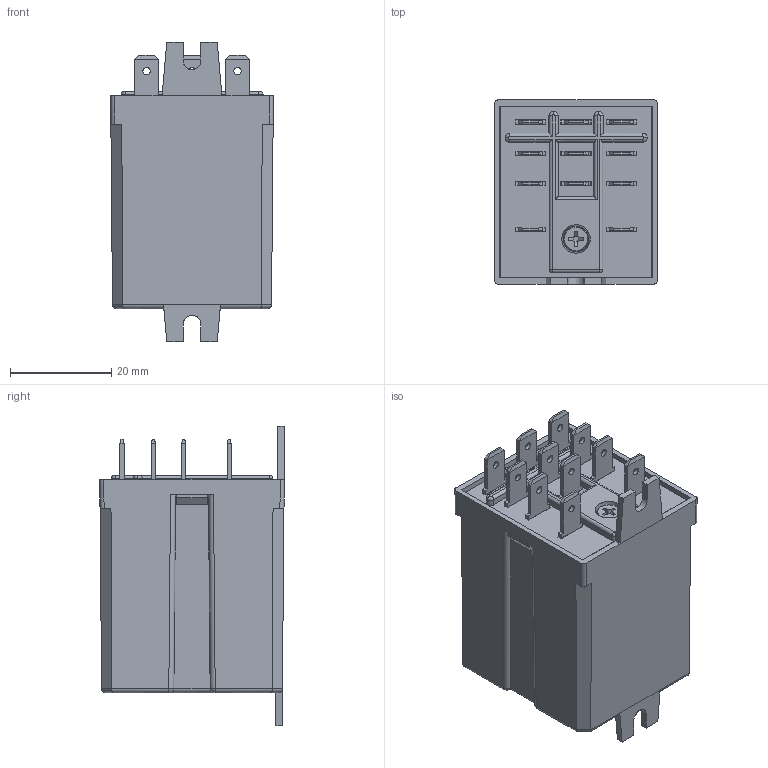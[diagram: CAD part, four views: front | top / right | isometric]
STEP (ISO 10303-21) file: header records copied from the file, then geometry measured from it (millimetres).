
FILE_DESCRIPTION(('STEP AP214'),'2;1');
FILE_NAME('60_63---catalogo.stp','2010-12-03T14:03:30',(''),(''),'2007.1.106','THINKDESIGN','');
FILE_SCHEMA(('AUTOMOTIVE_DESIGN'));
Length unit declared in the file: millimetre
Products named in the file (1): None
Bounding box: 32.2 x 36.5 x 59.2 mm (x, y, z)
Surface area: 12320.8 mm2 (no closed solid volume)
Topology: 0 solids, 0 shells, 340 faces, 1763 edges, 1793 vertices
Faces by surface type: plane 213, cylinder 66, bspline 61
Full cylindrical faces by diameter (mm): 1.45 x11, 2 x1, 5 x1
Entity records: 20249 total; most frequent: CARTESIAN_POINT 7182, DIRECTION 2045, COMPOSITE_CURVE_SEGMENT 1718, TRIMMED_CURVE 1395, VECTOR 1355, LINE 1355, STYLED_ITEM 383, PRESENTATION_STYLE_ASSIGNMENT 383
